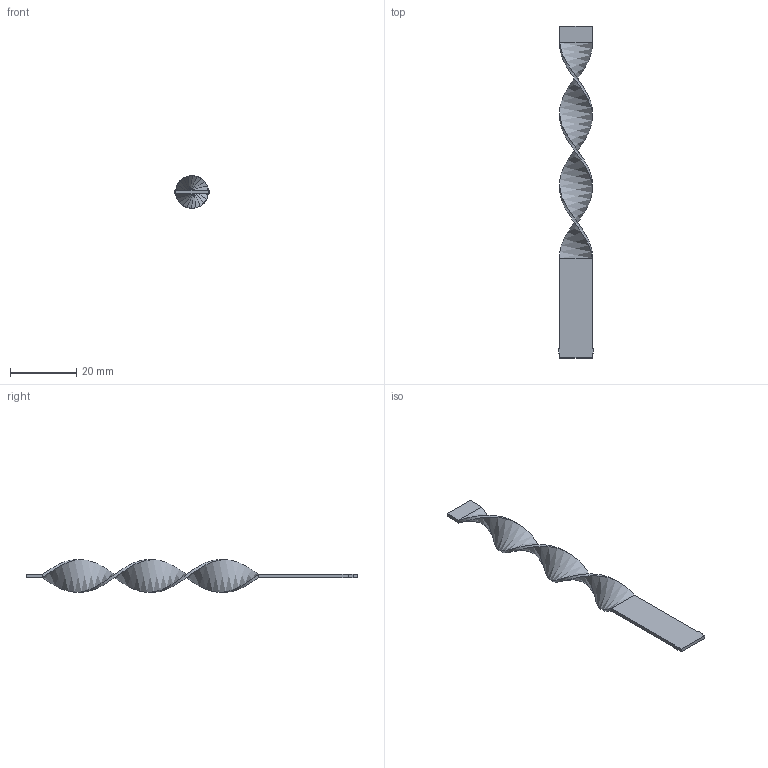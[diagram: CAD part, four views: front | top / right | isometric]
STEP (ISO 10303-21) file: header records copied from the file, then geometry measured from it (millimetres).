
FILE_DESCRIPTION (( 'STEP AP203' ), '1' );
FILE_NAME ('RLAS-10SMx100.STEP', '2015-12-10T13:32:59', ( 'Balzi' ), ( '' ), 'SwSTEP 2.0', 'SolidWorks 2015', '' );
FILE_SCHEMA (( 'CONFIG_CONTROL_DESIGN' ));
Length unit declared in the file: millimetre
Products named in the file (1): RLAS-10SMx100
Bounding box: 10.4 x 100 x 9.85 mm (x, y, z)
Volume: 981.3 mm3; surface area: 2284.2 mm2
Topology: 1 solids, 1 shells, 22 faces, 52 edges, 32 vertices
Faces by surface type: plane 18, bspline 4
Entity records: 1605 total; most frequent: CARTESIAN_POINT 1059, ORIENTED_EDGE 104, DIRECTION 82, EDGE_CURVE 52, LINE 44, VECTOR 44, VERTEX_POINT 32, EDGE_LOOP 22
